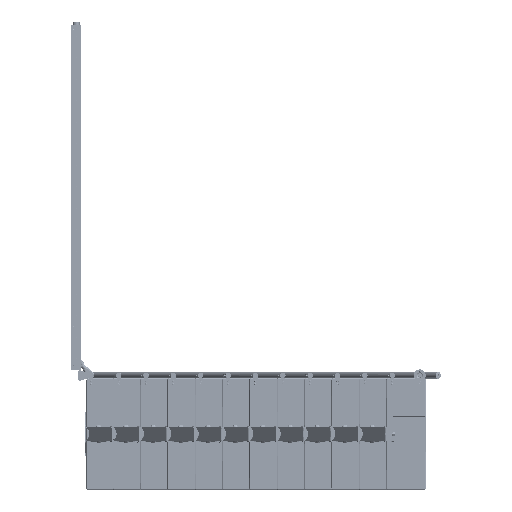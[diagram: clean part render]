
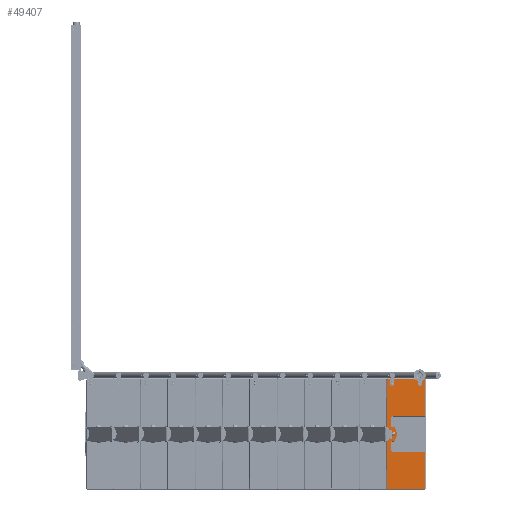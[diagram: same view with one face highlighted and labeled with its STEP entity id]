
A CAD part, front view. The second image highlights one B-rep face of the part: STEP entity #49407.
In plain terms, the highlighted planar face has unit normal (0, -1, 0).
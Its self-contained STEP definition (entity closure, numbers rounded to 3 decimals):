
#3070 = EDGE_CURVE ( 'NONE', #65645, #57221, #74023, .T. ) ;
#3379 = EDGE_CURVE ( 'NONE', #63319, #14057, #3799, .T. ) ;
#3799 = LINE ( 'NONE', #66234, #77969 ) ;
#4005 = EDGE_CURVE ( 'NONE', #16506, #53439, #41760, .T. ) ;
#4284 = DIRECTION ( 'NONE',  ( 1., 0., 0. ) ) ;
#5173 = CARTESIAN_POINT ( 'NONE',  ( 105.5, -19., -315. ) ) ;
#5985 = DIRECTION ( 'NONE',  ( 0., 1., 0. ) ) ;
#6150 = EDGE_LOOP ( 'NONE', ( #46655, #36922, #24291, #37771, #18773, #78705, #63249, #14668, #43498, #75803 ) ) ;
#6899 = VERTEX_POINT ( 'NONE', #75519 ) ;
#8417 = EDGE_CURVE ( 'NONE', #57221, #63319, #13992, .T. ) ;
#8617 = CARTESIAN_POINT ( 'NONE',  ( 105.5, -19., 315. ) ) ;
#10425 = DIRECTION ( 'NONE',  ( 0., 0., 1. ) ) ;
#11866 = CARTESIAN_POINT ( 'NONE',  ( -110.5, -19., -315. ) ) ;
#13832 = AXIS2_PLACEMENT_3D ( 'NONE', #63437, #43285, #44494 ) ;
#13992 = CIRCLE ( 'NONE', #59165, 5. ) ;
#14057 = VERTEX_POINT ( 'NONE', #33670 ) ;
#14668 = ORIENTED_EDGE ( 'NONE', *, *, #31339, .T. ) ;
#15713 = VERTEX_POINT ( 'NONE', #63287 ) ;
#16301 = CARTESIAN_POINT ( 'NONE',  ( 110.5, -19., 315. ) ) ;
#16316 = CARTESIAN_POINT ( 'NONE',  ( -105.5, -19., -320. ) ) ;
#16506 = VERTEX_POINT ( 'NONE', #23941 ) ;
#18773 = ORIENTED_EDGE ( 'NONE', *, *, #3379, .T. ) ;
#20080 = CARTESIAN_POINT ( 'NONE',  ( 110.5, -19., 315. ) ) ;
#21147 = CARTESIAN_POINT ( 'NONE',  ( 110.5, -19., 38.584 ) ) ;
#21908 = AXIS2_PLACEMENT_3D ( 'NONE', #5173, #41079, #29720 ) ;
#22153 = FACE_OUTER_BOUND ( 'NONE', #6150, .T. ) ;
#22415 = VERTEX_POINT ( 'NONE', #11866 ) ;
#23941 = CARTESIAN_POINT ( 'NONE',  ( -105.5, -19., -320. ) ) ;
#24291 = ORIENTED_EDGE ( 'NONE', *, *, #3070, .T. ) ;
#25330 = AXIS2_PLACEMENT_3D ( 'NONE', #49160, #62012, #31306 ) ;
#25490 = CIRCLE ( 'NONE', #13832, 5. ) ;
#26818 = LINE ( 'NONE', #27595, #57937 ) ;
#27595 = CARTESIAN_POINT ( 'NONE',  ( -110.5, -19., 315. ) ) ;
#28059 = CIRCLE ( 'NONE', #70704, 50. ) ;
#29403 = PLANE ( 'NONE',  #43721 ) ;
#29720 = DIRECTION ( 'NONE',  ( 0., 0., 1. ) ) ;
#31306 = DIRECTION ( 'NONE',  ( 0., 0., 1. ) ) ;
#31339 = EDGE_CURVE ( 'NONE', #22415, #16506, #25490, .T. ) ;
#31577 = VECTOR ( 'NONE', #4284, 1000. ) ;
#32796 = DIRECTION ( 'NONE',  ( 0., 0., 1. ) ) ;
#33182 = EDGE_CURVE ( 'NONE', #6899, #69447, #63663, .T. ) ;
#33615 = DIRECTION ( 'NONE',  ( 0., -1., 0. ) ) ;
#33670 = CARTESIAN_POINT ( 'NONE',  ( -105.5, -19., 320. ) ) ;
#36922 = ORIENTED_EDGE ( 'NONE', *, *, #45077, .T. ) ;
#37771 = ORIENTED_EDGE ( 'NONE', *, *, #8417, .T. ) ;
#38940 = DIRECTION ( 'NONE',  ( 0., 0., -1. ) ) ;
#41079 = DIRECTION ( 'NONE',  ( 0., -1., 0. ) ) ;
#41156 = DIRECTION ( 'NONE',  ( 0., 1., 0. ) ) ;
#41540 = CARTESIAN_POINT ( 'NONE',  ( -105.5, -19., 315. ) ) ;
#41595 = CARTESIAN_POINT ( 'NONE',  ( 105.5, -19., 320. ) ) ;
#41760 = LINE ( 'NONE', #16316, #31577 ) ;
#42126 = CARTESIAN_POINT ( 'NONE',  ( 110.5, -19., -38.584 ) ) ;
#43285 = DIRECTION ( 'NONE',  ( 0., -1., 0. ) ) ;
#43498 = ORIENTED_EDGE ( 'NONE', *, *, #4005, .T. ) ;
#43721 = AXIS2_PLACEMENT_3D ( 'NONE', #41540, #41156, #52889 ) ;
#44025 = EDGE_CURVE ( 'NONE', #14057, #15713, #69258, .T. ) ;
#44314 = DIRECTION ( 'NONE',  ( 0., 0., 1. ) ) ;
#44494 = DIRECTION ( 'NONE',  ( 0., 0., 1. ) ) ;
#45077 = EDGE_CURVE ( 'NONE', #69447, #65645, #28059, .T. ) ;
#46655 = ORIENTED_EDGE ( 'NONE', *, *, #33182, .T. ) ;
#49160 = CARTESIAN_POINT ( 'NONE',  ( -105.5, -19., 315. ) ) ;
#49407 = ADVANCED_FACE ( 'NONE', ( #22153 ), #29403, .F. ) ;
#51965 = VECTOR ( 'NONE', #73642, 1000. ) ;
#52417 = EDGE_CURVE ( 'NONE', #53439, #6899, #59338, .T. ) ;
#52889 = DIRECTION ( 'NONE',  ( 0., 0., 1. ) ) ;
#53439 = VERTEX_POINT ( 'NONE', #59346 ) ;
#54197 = DIRECTION ( 'NONE',  ( -1., 0., 0. ) ) ;
#55056 = CARTESIAN_POINT ( 'NONE',  ( 110.5, -19., 315. ) ) ;
#56712 = VECTOR ( 'NONE', #44314, 1000. ) ;
#57221 = VERTEX_POINT ( 'NONE', #16301 ) ;
#57937 = VECTOR ( 'NONE', #38940, 1000. ) ;
#59165 = AXIS2_PLACEMENT_3D ( 'NONE', #8617, #33615, #32796 ) ;
#59338 = CIRCLE ( 'NONE', #21908, 5. ) ;
#59346 = CARTESIAN_POINT ( 'NONE',  ( 105.5, -19., -320. ) ) ;
#60840 = CARTESIAN_POINT ( 'NONE',  ( 142.3, -19., 0. ) ) ;
#62012 = DIRECTION ( 'NONE',  ( 0., -1., 0. ) ) ;
#63249 = ORIENTED_EDGE ( 'NONE', *, *, #66812, .T. ) ;
#63287 = CARTESIAN_POINT ( 'NONE',  ( -110.5, -19., 315. ) ) ;
#63319 = VERTEX_POINT ( 'NONE', #41595 ) ;
#63437 = CARTESIAN_POINT ( 'NONE',  ( -105.5, -19., -315. ) ) ;
#63663 = LINE ( 'NONE', #20080, #56712 ) ;
#65645 = VERTEX_POINT ( 'NONE', #21147 ) ;
#66234 = CARTESIAN_POINT ( 'NONE',  ( -105.5, -19., 320. ) ) ;
#66812 = EDGE_CURVE ( 'NONE', #15713, #22415, #26818, .T. ) ;
#69258 = CIRCLE ( 'NONE', #25330, 5. ) ;
#69447 = VERTEX_POINT ( 'NONE', #42126 ) ;
#70704 = AXIS2_PLACEMENT_3D ( 'NONE', #60840, #5985, #10425 ) ;
#73642 = DIRECTION ( 'NONE',  ( 0., 0., 1. ) ) ;
#74023 = LINE ( 'NONE', #55056, #51965 ) ;
#75519 = CARTESIAN_POINT ( 'NONE',  ( 110.5, -19., -315. ) ) ;
#75803 = ORIENTED_EDGE ( 'NONE', *, *, #52417, .T. ) ;
#77969 = VECTOR ( 'NONE', #54197, 1000. ) ;
#78705 = ORIENTED_EDGE ( 'NONE', *, *, #44025, .T. ) ;
